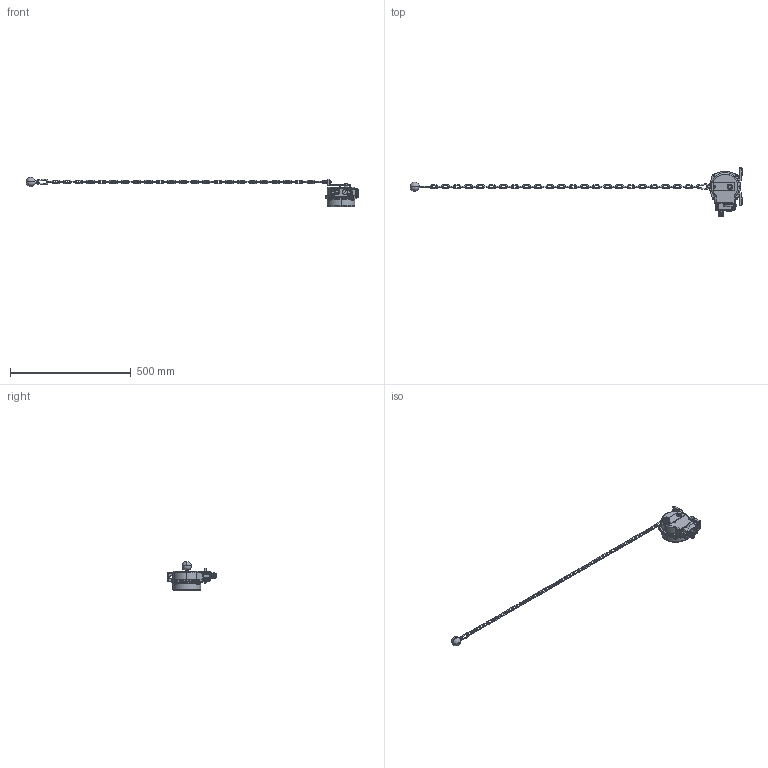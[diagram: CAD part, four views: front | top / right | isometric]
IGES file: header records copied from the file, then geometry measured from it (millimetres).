
Start section: SolidWorks IGES file using analytic representation for surfaces
Global section: file name: C:\Users\Äîì\Desktop\Äàò÷èêè ìîäåëè\BHS-M\rjvgfc\BHS-N àëþìèíèåâàÿ êðûøêà.IGS; native system: SolidWorks 2020; preprocessor: SolidWorks 2020; author: Äîì; date: 210322.220423; units: millimetre
Bounding box: 1375 x 199.6 x 121 mm (x, y, z)
Surface area: 184865 mm2 (no closed solid volume)
Topology: 0 solids, 0 shells, 1631 faces, 14265 edges, 14239 vertices
Faces by surface type: revolution 848, bspline 783
